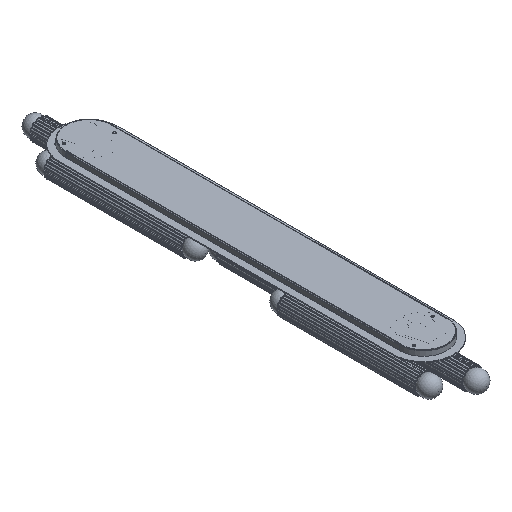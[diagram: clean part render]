
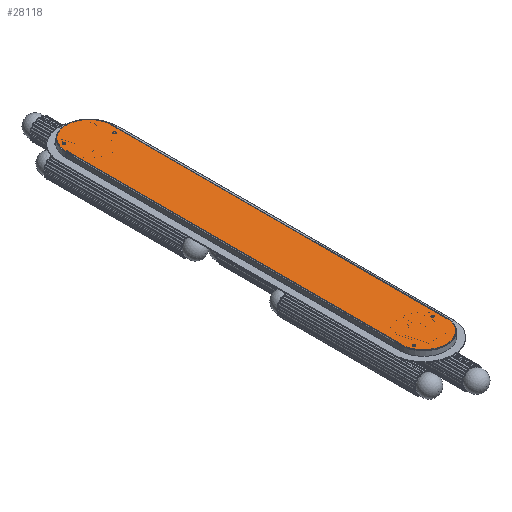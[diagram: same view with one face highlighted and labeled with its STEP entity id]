
A CAD part, isometric view. The second image highlights one B-rep face of the part: STEP entity #28118.
In plain terms, the highlighted planar face has unit normal (0, 0, 1).
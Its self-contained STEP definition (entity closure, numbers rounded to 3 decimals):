
#800=PLANE('',#30783);
#2168=FACE_OUTER_BOUND('',#3694,.T.);
#3694=EDGE_LOOP('',(#22658,#22659,#22660,#22661,#22662,#22663,#22664,#22665,
#22666,#22667,#22668,#22669,#22670,#22671,#22672,#22673));
#5179=CIRCLE('',#30784,0.5);
#5180=CIRCLE('',#30785,53.5);
#5181=CIRCLE('',#30786,0.5);
#5182=CIRCLE('',#30787,0.5);
#5183=CIRCLE('',#30788,0.5);
#5184=CIRCLE('',#30789,0.5);
#5185=CIRCLE('',#30790,53.5);
#5186=CIRCLE('',#30791,0.5);
#5187=CIRCLE('',#30792,0.5);
#5188=CIRCLE('',#30793,0.5);
#7190=LINE('',#48218,#9411);
#7199=LINE('',#48269,#9420);
#7200=LINE('',#48273,#9421);
#7201=LINE('',#48277,#9422);
#7202=LINE('',#48285,#9423);
#7203=LINE('',#48289,#9424);
#9411=VECTOR('',#37570,10.);
#9420=VECTOR('',#37617,10.);
#9421=VECTOR('',#37620,10.);
#9422=VECTOR('',#37623,10.);
#9423=VECTOR('',#37630,10.);
#9424=VECTOR('',#37635,10.);
#12127=VERTEX_POINT('',#48215);
#12128=VERTEX_POINT('',#48217);
#12147=VERTEX_POINT('',#48261);
#12148=VERTEX_POINT('',#48262);
#12149=VERTEX_POINT('',#48264);
#12150=VERTEX_POINT('',#48266);
#12151=VERTEX_POINT('',#48268);
#12152=VERTEX_POINT('',#48270);
#12153=VERTEX_POINT('',#48272);
#12154=VERTEX_POINT('',#48274);
#12155=VERTEX_POINT('',#48276);
#12156=VERTEX_POINT('',#48278);
#12157=VERTEX_POINT('',#48280);
#12158=VERTEX_POINT('',#48282);
#12159=VERTEX_POINT('',#48284);
#12160=VERTEX_POINT('',#48287);
#15747=EDGE_CURVE('',#12128,#12127,#7190,.T.);
#15769=EDGE_CURVE('',#12147,#12148,#5179,.T.);
#15770=EDGE_CURVE('',#12149,#12147,#5180,.T.);
#15771=EDGE_CURVE('',#12150,#12149,#5181,.T.);
#15772=EDGE_CURVE('',#12150,#12151,#7199,.T.);
#15773=EDGE_CURVE('',#12151,#12152,#5182,.T.);
#15774=EDGE_CURVE('',#12152,#12153,#7200,.T.);
#15775=EDGE_CURVE('',#12153,#12154,#5183,.T.);
#15776=EDGE_CURVE('',#12154,#12155,#7201,.T.);
#15777=EDGE_CURVE('',#12156,#12155,#5184,.T.);
#15778=EDGE_CURVE('',#12157,#12156,#5185,.T.);
#15779=EDGE_CURVE('',#12158,#12157,#5186,.T.);
#15780=EDGE_CURVE('',#12158,#12159,#7202,.T.);
#15781=EDGE_CURVE('',#12159,#12128,#5187,.T.);
#15782=EDGE_CURVE('',#12127,#12160,#5188,.T.);
#15783=EDGE_CURVE('',#12160,#12148,#7203,.T.);
#22658=ORIENTED_EDGE('',*,*,#15769,.F.);
#22659=ORIENTED_EDGE('',*,*,#15770,.F.);
#22660=ORIENTED_EDGE('',*,*,#15771,.F.);
#22661=ORIENTED_EDGE('',*,*,#15772,.T.);
#22662=ORIENTED_EDGE('',*,*,#15773,.T.);
#22663=ORIENTED_EDGE('',*,*,#15774,.T.);
#22664=ORIENTED_EDGE('',*,*,#15775,.T.);
#22665=ORIENTED_EDGE('',*,*,#15776,.T.);
#22666=ORIENTED_EDGE('',*,*,#15777,.F.);
#22667=ORIENTED_EDGE('',*,*,#15778,.F.);
#22668=ORIENTED_EDGE('',*,*,#15779,.F.);
#22669=ORIENTED_EDGE('',*,*,#15780,.T.);
#22670=ORIENTED_EDGE('',*,*,#15781,.T.);
#22671=ORIENTED_EDGE('',*,*,#15747,.T.);
#22672=ORIENTED_EDGE('',*,*,#15782,.T.);
#22673=ORIENTED_EDGE('',*,*,#15783,.T.);
#28118=ADVANCED_FACE('',(#2168),#800,.T.);
#30783=AXIS2_PLACEMENT_3D('',#48260,#37609,#37610);
#30784=AXIS2_PLACEMENT_3D('',#48263,#37611,#37612);
#30785=AXIS2_PLACEMENT_3D('',#48265,#37613,#37614);
#30786=AXIS2_PLACEMENT_3D('',#48267,#37615,#37616);
#30787=AXIS2_PLACEMENT_3D('',#48271,#37618,#37619);
#30788=AXIS2_PLACEMENT_3D('',#48275,#37621,#37622);
#30789=AXIS2_PLACEMENT_3D('',#48279,#37624,#37625);
#30790=AXIS2_PLACEMENT_3D('',#48281,#37626,#37627);
#30791=AXIS2_PLACEMENT_3D('',#48283,#37628,#37629);
#30792=AXIS2_PLACEMENT_3D('',#48286,#37631,#37632);
#30793=AXIS2_PLACEMENT_3D('',#48288,#37633,#37634);
#37570=DIRECTION('',(0.,-1.,0.));
#37609=DIRECTION('center_axis',(0.,0.,
1.));
#37610=DIRECTION('ref_axis',(0.,1.,0.));
#37611=DIRECTION('center_axis',(0.,0.,
-1.));
#37612=DIRECTION('ref_axis',(-0.71,0.704,0.));
#37613=DIRECTION('center_axis',(0.,0.,
-1.));
#37614=DIRECTION('ref_axis',(1.,0.,0.));
#37615=DIRECTION('center_axis',(0.,0.,
-1.));
#37616=DIRECTION('ref_axis',(0.71,0.704,0.));
#37617=DIRECTION('',(-1.,0.,0.));
#37618=DIRECTION('center_axis',(0.,0.,
-1.));
#37619=DIRECTION('ref_axis',(0.,1.,0.));
#37620=DIRECTION('',(0.,1.,0.));
#37621=DIRECTION('center_axis',(0.,0.,
-1.));
#37622=DIRECTION('ref_axis',(0.,-1.,0.));
#37623=DIRECTION('',(1.,0.,0.));
#37624=DIRECTION('center_axis',(0.,0.,
-1.));
#37625=DIRECTION('ref_axis',(0.71,-0.704,0.));
#37626=DIRECTION('center_axis',(0.,0.,
-1.));
#37627=DIRECTION('ref_axis',(-1.,0.,0.));
#37628=DIRECTION('center_axis',(0.,0.,
-1.));
#37629=DIRECTION('ref_axis',(-0.71,-0.704,0.));
#37630=DIRECTION('',(1.,0.,0.));
#37631=DIRECTION('center_axis',(0.,0.,
-1.));
#37632=DIRECTION('ref_axis',(0.,-1.,0.));
#37633=DIRECTION('center_axis',(0.,0.,
-1.));
#37634=DIRECTION('ref_axis',(0.,1.,0.));
#37635=DIRECTION('',(-1.,0.,0.));
#48215=CARTESIAN_POINT('',(-60.907,-388.223,-4.763));
#48217=CARTESIAN_POINT('',(-60.907,389.777,-4.763));
#48218=CARTESIAN_POINT('',(-60.907,195.277,-4.763));
#48260=CARTESIAN_POINT('Origin',(-8.407,0.777,-4.763));
#48261=CARTESIAN_POINT('',(-61.905,-389.728,-4.763));
#48262=CARTESIAN_POINT('',(-61.405,-389.223,-4.763));
#48263=CARTESIAN_POINT('Origin',(-61.405,-389.723,-4.763));
#48264=CARTESIAN_POINT('',(45.091,-389.728,-4.763));
#48265=CARTESIAN_POINT('Origin',(-8.407,-389.223,-4.763));
#48266=CARTESIAN_POINT('',(44.591,-389.223,-4.763));
#48267=CARTESIAN_POINT('Origin',(44.591,-389.723,-4.763));
#48268=CARTESIAN_POINT('',(44.093,-389.223,-4.763));
#48269=CARTESIAN_POINT('',(18.343,-389.223,-4.763));
#48270=CARTESIAN_POINT('',(44.093,-388.223,-4.763));
#48271=CARTESIAN_POINT('Origin',(44.093,-388.723,-4.763));
#48272=CARTESIAN_POINT('',(44.093,389.777,-4.763));
#48273=CARTESIAN_POINT('',(44.093,-193.723,-4.763));
#48274=CARTESIAN_POINT('',(44.093,390.777,-4.763));
#48275=CARTESIAN_POINT('Origin',(44.093,390.277,-4.763));
#48276=CARTESIAN_POINT('',(44.591,390.777,-4.763));
#48277=CARTESIAN_POINT('',(17.843,390.777,-4.763));
#48278=CARTESIAN_POINT('',(45.091,391.281,-4.763));
#48279=CARTESIAN_POINT('Origin',(44.591,391.277,-4.763));
#48280=CARTESIAN_POINT('',(-61.905,391.281,-4.763));
#48281=CARTESIAN_POINT('Origin',(-8.407,390.777,-4.763));
#48282=CARTESIAN_POINT('',(-61.405,390.777,-4.763));
#48283=CARTESIAN_POINT('Origin',(-61.405,391.277,-4.763));
#48284=CARTESIAN_POINT('',(-60.907,390.777,-4.763));
#48285=CARTESIAN_POINT('',(-35.157,390.777,-4.763));
#48286=CARTESIAN_POINT('Origin',(-60.907,390.277,-4.763));
#48287=CARTESIAN_POINT('',(-60.907,-389.223,-4.763));
#48288=CARTESIAN_POINT('Origin',(-60.907,-388.723,-4.763));
#48289=CARTESIAN_POINT('',(-34.657,-389.223,-4.763));
